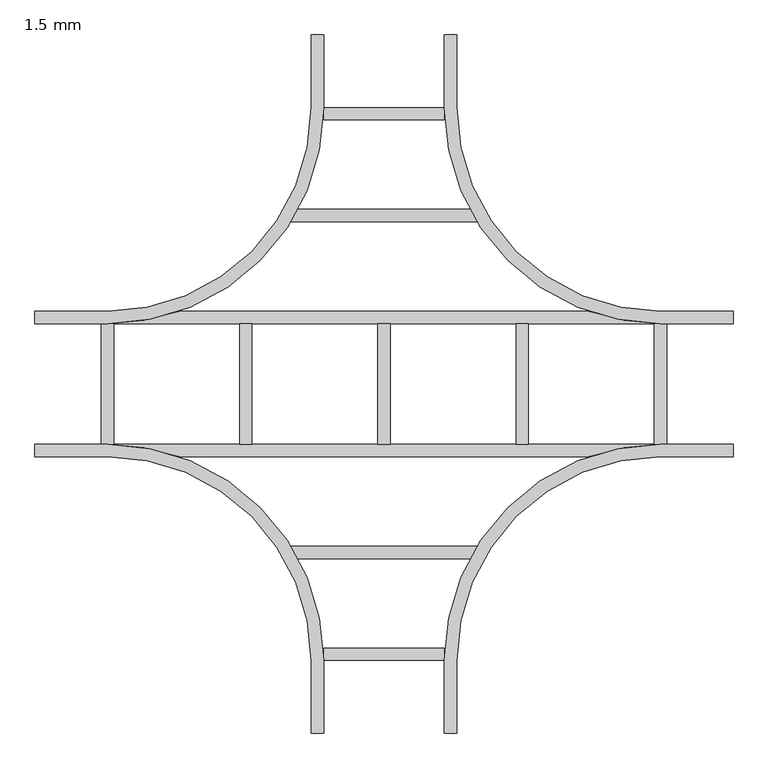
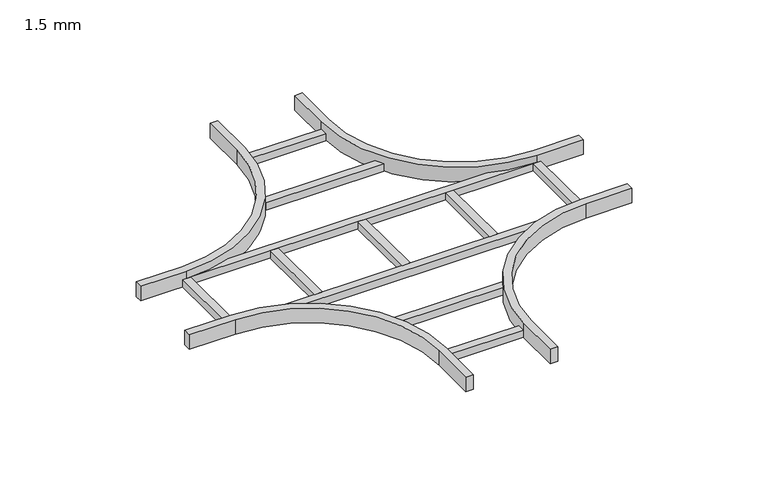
"""IFC4 building model written with IfcOpenShell, lengths in millimetres: cable carrier fitting geometry, BAKS_Czwórnik_drabiny : 1.5 mm."""

from ifc_helpers import new_model, si_unit, frame, origin, place, context, project, spatial, polyline, circle_curve, outline, extrude, source, transform, mapped, element, save
from ifc_brep_helpers import plane_surface, cylinder_surface, revolved_surface, advanced_brep


def cable_carrier_fitting_1_5_mm_98a35593(model_context):
    return source(origin(), model_context, "Body", "SolidModel", [
        extrude(outline(polyline([(191.8889052, -334.6), (191.8889052, -360.0), (-191.8889052, -360.0), (-191.8889052, -334.6), (191.8889052, -334.6)])), frame((0.0, 0.0, -25.0), z_axis=(0.0, 0.0, 1.0), x_axis=(1.0, 0.0, 0.0)), (0.0, 0.0, 1.0), 25.4),
        extrude(outline(polyline([(191.8889052, 360.0), (191.8889052, 334.6), (-191.8889052, 334.6), (-191.8889052, 360.0), (191.8889052, 360.0)])), frame((0.0, 0.0, -25.0), z_axis=(0.0, 0.0, 1.0), x_axis=(1.0, 0.0, 0.0)), (0.0, 0.0, 1.0), 25.4),
        extrude(outline(polyline([(124.6, -544.6), (124.6, -570.0), (-124.6, -570.0), (-124.6, -544.6), (124.6, -544.6)])), frame((0.0, 0.0, -25.0), z_axis=(0.0, 0.0, 1.0), x_axis=(1.0, 0.0, 0.0)), (0.0, 0.0, 1.0), 25.4),
        extrude(outline(polyline([(124.6, 570.0), (124.6, 544.6), (-124.6, 544.6), (-124.6, 570.0), (124.6, 570.0)])), frame((0.0, 0.0, -25.0), z_axis=(0.0, 0.0, 1.0), x_axis=(1.0, 0.0, 0.0)), (0.0, 0.0, 1.0), 25.4),
        extrude(outline(polyline([(582.7, 124.6), (582.7, -124.6), (557.3, -124.6), (557.3, 124.6), (582.7, 124.6)])), frame((0.0, 0.0, -25.0), z_axis=(0.0, 0.0, 1.0), x_axis=(1.0, 0.0, 0.0)), (0.0, 0.0, 1.0), 25.4),
        extrude(outline(polyline([(297.7, 124.6), (297.7, -124.6), (272.3, -124.6), (272.3, 124.6), (297.7, 124.6)])), frame((0.0, 0.0, -25.0), z_axis=(0.0, 0.0, 1.0), x_axis=(1.0, 0.0, 0.0)), (0.0, 0.0, 1.0), 25.4),
        extrude(outline(polyline([(12.7, 124.6), (12.7, -124.6), (-12.7, -124.6), (-12.7, 124.6), (12.7, 124.6)])), frame((0.0, 0.0, -25.0), z_axis=(0.0, 0.0, 1.0), x_axis=(1.0, 0.0, 0.0)), (0.0, 0.0, 1.0), 25.4),
        extrude(outline(polyline([(-272.3, 124.6), (-272.3, -124.6), (-297.7, -124.6), (-297.7, 124.6), (-272.3, 124.6)])), frame((0.0, 0.0, -25.0), z_axis=(0.0, 0.0, 1.0), x_axis=(1.0, 0.0, 0.0)), (0.0, 0.0, 1.0), 25.4),
        extrude(outline(polyline([(-557.3, 124.6), (-557.3, -124.6), (-582.7, -124.6), (-582.7, 124.6), (-557.3, 124.6)])), frame((0.0, 0.0, -25.0), z_axis=(0.0, 0.0, 1.0), x_axis=(1.0, 0.0, 0.0)), (0.0, 0.0, 1.0), 25.4),
        advanced_brep(
        [(-150.0, -570.0, 25.0), (-150.0, -720.0, 25.0), (-124.6, -720.0, 25.0), (-124.6, -570.0, 25.0), (-570.0, -124.6, 25.0), (-720.0, -124.6, 25.0), (-720.0, -150.0, 25.0), (-570.0, -150.0, 25.0), (150.0, -570.0, 25.0), (570.0, -150.0, 25.0), (720.0, -150.0, 25.0), (720.0, -124.6, 25.0), (570.0, -124.6, 25.0), (124.6, -570.0, 25.0), (124.6, -720.0, 25.0), (150.0, -720.0, 25.0), (-150.0, -570.0, -25.0), (-570.0, -150.0, -25.0), (-720.0, -150.0, -25.0), (-720.0, -124.6, -25.0), (720.0, -124.6, -25.0), (720.0, -150.0, -25.0), (570.0, -150.0, -25.0), (150.0, -570.0, -25.0), (150.0, -720.0, -25.0), (124.6, -720.0, -25.0), (124.6, -570.0, -25.0), (421.7395535, -150.0, -25.0), (-421.7395535, -150.0, -25.0), (-124.6, -570.0, -25.0), (-124.6, -720.0, -25.0), (-150.0, -720.0, -25.0), (-421.7395535, -150.0, 0.4), (-570.0, -124.6, 0.4), (570.0, -124.6, 0.4), (-570.0, -150.0, 0.4), (570.0, -150.0, 0.4), (421.7395535, -150.0, 0.4)],
        [
            (0, 1),
            (1, 2),
            (2, 3),
            (3, 4, circle_curve(frame((-570.0, -570.0, 25.0), z_axis=(0.0, 0.0, 1.0), x_axis=(1.0, 0.0, 0.0)), 445.4)),
            (4, 5),
            (5, 6),
            (6, 7),
            (7, 0, circle_curve(frame((-570.0, -570.0, 25.0), z_axis=(0.0, 0.0, -1.0), x_axis=(1.0, 0.0, 0.0)), 420.0)),
            (8, 9, circle_curve(frame((570.0, -570.0, 25.0), z_axis=(0.0, 0.0, -1.0), x_axis=(1.0, 0.0, 0.0)), 420.0)),
            (9, 10),
            (10, 11),
            (11, 12),
            (12, 13, circle_curve(frame((570.0, -570.0, 25.0), z_axis=(0.0, 0.0, 1.0), x_axis=(1.0, 0.0, 0.0)), 445.4)),
            (13, 14),
            (14, 15),
            (15, 8),
            (16, 17, circle_curve(frame((-570.0, -570.0, -25.0), z_axis=(0.0, 0.0, 1.0), x_axis=(1.0, 0.0, 0.0)), 420.0)),
            (17, 18),
            (18, 19),
            (19, 20),
            (20, 21),
            (21, 22),
            (22, 23, circle_curve(frame((570.0, -570.0, -25.0), z_axis=(0.0, 0.0, 1.0), x_axis=(1.0, 0.0, 0.0)), 420.0)),
            (23, 24),
            (24, 25),
            (25, 26),
            (26, 27, circle_curve(frame((570.0, -570.0, -25.0), z_axis=(0.0, 0.0, -1.0), x_axis=(1.0, 0.0, 0.0)), 445.4)),
            (27, 28),
            (28, 29, circle_curve(frame((-570.0, -570.0, -25.0), z_axis=(0.0, 0.0, -1.0), x_axis=(1.0, 0.0, 0.0)), 445.4)),
            (29, 30),
            (30, 31),
            (31, 16),
            (0, 16),
            (31, 1),
            (30, 2),
            (29, 3),
            (28, 32),
            (32, 33, circle_curve(frame((-570.0, -570.0, 0.4), z_axis=(0.0, 0.0, 1.0), x_axis=(1.0, 0.0, 0.0)), 445.4)),
            (33, 4),
            (33, 34),
            (34, 12),
            (11, 20),
            (19, 5),
            (18, 6),
            (17, 35),
            (35, 7),
            (8, 23),
            (22, 36),
            (36, 9),
            (21, 10),
            (34, 37, circle_curve(frame((570.0, -570.0, 0.4), z_axis=(0.0, 0.0, 1.0), x_axis=(1.0, 0.0, 0.0)), 445.4)),
            (37, 27),
            (26, 13),
            (25, 14),
            (24, 15),
            (32, 37),
        ],
        [
            plane_surface(frame((-150.0, -570.0, 25.0), z_axis=(0.0, 0.0, 1.0), x_axis=(0.0, -1.0, 0.0))),
            plane_surface(frame((-150.0, -570.0, -25.0), z_axis=(0.0, 0.0, -1.0), x_axis=(0.0, 1.0, 0.0))),
            plane_surface(frame((-150.0, -570.0, 25.0), z_axis=(-1.0, 0.0, 0.0), x_axis=(0.0, 0.0, -1.0))),
            plane_surface(frame((-150.0, -720.0, 25.0), z_axis=(0.0, -1.0, 0.0), x_axis=(0.0, 0.0, -1.0))),
            plane_surface(frame((-124.6, -720.0, 25.0), z_axis=(1.0, 0.0, 0.0), x_axis=(0.0, 0.0, -1.0))),
            cylinder_surface(frame((-570.0, -570.0, -25.0), z_axis=(0.0, 0.0, 1.0), x_axis=(1.0, 0.0, 0.0)), 445.4),
            plane_surface(frame((-570.0, -124.6, 25.0), z_axis=(0.0, 1.0, 0.0), x_axis=(0.0, 0.0, -1.0))),
            plane_surface(frame((-720.0, -124.6, 25.0), z_axis=(-1.0, 0.0, 0.0), x_axis=(0.0, 0.0, -1.0))),
            plane_surface(frame((-720.0, -150.0, 25.0), z_axis=(0.0, -1.0, 0.0), x_axis=(0.0, 0.0, -1.0))),
            revolved_surface(polyline([(-150.0, -570.0, -25.0), (-150.0, -570.0, 25.0)]), (-570.0, -570.0, -25.0), (0.0, 0.0, -1.0)),
            revolved_surface(polyline([(990.0, -570.0, -25.0), (990.0, -570.0, 25.0)]), (570.0, -570.0, 0.0), (0.0, 0.0, -1.0)),
            plane_surface(frame((570.0, -150.0, 25.0), z_axis=(0.0, -1.0, 0.0), x_axis=(0.0, 0.0, -1.0))),
            plane_surface(frame((720.0, -150.0, 25.0), z_axis=(1.0, 0.0, 0.0), x_axis=(0.0, 0.0, -1.0))),
            cylinder_surface(frame((570.0, -570.0, 0.0), z_axis=(0.0, 0.0, 1.0), x_axis=(1.0, 0.0, 0.0)), 445.4),
            plane_surface(frame((124.6, -570.0, 25.0), z_axis=(-1.0, 0.0, 0.0), x_axis=(0.0, 0.0, -1.0))),
            plane_surface(frame((124.6, -720.0, 25.0), z_axis=(0.0, -1.0, 0.0), x_axis=(0.0, 0.0, -1.0))),
            plane_surface(frame((150.0, -720.0, 25.0), z_axis=(1.0, 0.0, 0.0), x_axis=(0.0, 0.0, -1.0))),
            plane_surface(frame((-570.0, -124.6, 0.4), z_axis=(0.0, 0.0, 1.0), x_axis=(-1.0, 0.0, 0.0))),
            plane_surface(frame((-570.0, -150.0, 0.4), z_axis=(0.0, -1.0, 0.0), x_axis=(0.0, 0.0, -1.0))),
        ],
        [
            (0, [[1, 2, 3, 4, 5, 6, 7, 8]]),
            (0, [[9, 10, 11, 12, 13, 14, 15, 16]]),
            (1, [[17, 18, 19, 20, 21, 22, 23, 24, 25, 26, 27, 28, 29, 30, 31, 32]]),
            (2, [[-1, 33, -32, 34]]),
            (3, [[-2, -34, -31, 35]]),
            (4, [[-3, -35, -30, 36]]),
            (5, [[-4, -36, -29, 37, 38, 39]]),
            (6, [[-5, -39, 40, 41, -12, 42, -20, 43]]),
            (7, [[-6, -43, -19, 44]]),
            (8, [[-7, -44, -18, 45, 46]]),
            (9, [[-8, -46, -45, -17, -33]]),
            (10, [[-9, 47, -23, 48, 49]]),
            (11, [[-10, -49, -48, -22, 50]]),
            (12, [[-11, -50, -21, -42]]),
            (13, [[-13, -41, 51, 52, -27, 53]]),
            (14, [[-14, -53, -26, 54]]),
            (15, [[-15, -54, -25, 55]]),
            (16, [[-16, -55, -24, -47]]),
            (17, [[-40, -38, 56, -51]]),
            (18, [[-28, -52, -56, -37]]),
        ],
    ),
        advanced_brep(
        [(-124.6, 570.0, 25.0), (-124.6, 720.0, 25.0), (-150.0, 720.0, 25.0), (-150.0, 570.0, 25.0), (-570.0, 150.0, 25.0), (-720.0, 150.0, 25.0), (-720.0, 124.6, 25.0), (-570.0, 124.6, 25.0), (124.6, 570.0, 25.0), (570.0, 124.6, 25.0), (720.0, 124.6, 25.0), (720.0, 150.0, 25.0), (570.0, 150.0, 25.0), (150.0, 570.0, 25.0), (150.0, 720.0, 25.0), (124.6, 720.0, 25.0), (-720.0, 124.6, -25.0), (-720.0, 150.0, -25.0), (-570.0, 150.0, -25.0), (-150.0, 570.0, -25.0), (-150.0, 720.0, -25.0), (-124.6, 720.0, -25.0), (-124.6, 570.0, -25.0), (-421.7395535, 150.0, -25.0), (421.7395535, 150.0, -25.0), (124.6, 570.0, -25.0), (124.6, 720.0, -25.0), (150.0, 720.0, -25.0), (150.0, 570.0, -25.0), (570.0, 150.0, -25.0), (720.0, 150.0, -25.0), (720.0, 124.6, -25.0), (-570.0, 124.6, 0.4), (570.0, 124.6, 0.4), (421.7395535, 150.0, 0.4), (-421.7395535, 150.0, 0.4), (-570.0, 150.0, 0.4), (570.0, 150.0, 0.4)],
        [
            (0, 1),
            (1, 2),
            (2, 3),
            (3, 4, circle_curve(frame((-570.0, 570.0, 25.0), z_axis=(0.0, 0.0, -1.0), x_axis=(1.0, 0.0, 0.0)), 420.0)),
            (4, 5),
            (5, 6),
            (6, 7),
            (7, 0, circle_curve(frame((-570.0, 570.0, 25.0), z_axis=(0.0, 0.0, 1.0), x_axis=(1.0, 0.0, 0.0)), 445.4)),
            (8, 9, circle_curve(frame((570.0, 570.0, 25.0), z_axis=(0.0, 0.0, 1.0), x_axis=(1.0, 0.0, 0.0)), 445.4)),
            (9, 10),
            (10, 11),
            (11, 12),
            (12, 13, circle_curve(frame((570.0, 570.0, 25.0), z_axis=(0.0, 0.0, -1.0), x_axis=(1.0, 0.0, 0.0)), 420.0)),
            (13, 14),
            (14, 15),
            (15, 8),
            (16, 17),
            (17, 18),
            (18, 19, circle_curve(frame((-570.0, 570.0, -25.0), z_axis=(0.0, 0.0, 1.0), x_axis=(1.0, 0.0, 0.0)), 420.0)),
            (19, 20),
            (20, 21),
            (21, 22),
            (22, 23, circle_curve(frame((-570.0, 570.0, -25.0), z_axis=(0.0, 0.0, -1.0), x_axis=(1.0, 0.0, 0.0)), 445.4)),
            (23, 24),
            (24, 25, circle_curve(frame((570.0, 570.0, -25.0), z_axis=(0.0, 0.0, -1.0), x_axis=(1.0, 0.0, 0.0)), 445.4)),
            (25, 26),
            (26, 27),
            (27, 28),
            (28, 29, circle_curve(frame((570.0, 570.0, -25.0), z_axis=(0.0, 0.0, 1.0), x_axis=(1.0, 0.0, 0.0)), 420.0)),
            (29, 30),
            (30, 31),
            (31, 16),
            (32, 33),
            (33, 34, circle_curve(frame((570.0, 570.0, 0.4), z_axis=(0.0, 0.0, -1.0), x_axis=(1.0, 0.0, 0.0)), 445.4)),
            (34, 35),
            (35, 32, circle_curve(frame((-570.0, 570.0, 0.4), z_axis=(0.0, 0.0, -1.0), x_axis=(1.0, 0.0, 0.0)), 445.4)),
            (0, 22),
            (21, 1),
            (20, 2),
            (19, 3),
            (18, 36),
            (36, 4),
            (17, 5),
            (16, 6),
            (31, 10),
            (9, 33),
            (32, 7),
            (35, 23),
            (8, 25),
            (24, 34),
            (30, 11),
            (29, 37),
            (37, 12),
            (28, 13),
            (27, 14),
            (26, 15),
        ],
        [
            plane_surface(frame((-150.0, -570.0, 25.0), z_axis=(0.0, 0.0, 1.0), x_axis=(0.0, -1.0, 0.0))),
            plane_surface(frame((-150.0, -570.0, -25.0), z_axis=(0.0, 0.0, -1.0), x_axis=(0.0, 1.0, 0.0))),
            plane_surface(frame((-570.0, -124.6, 0.4), z_axis=(0.0, 0.0, 1.0), x_axis=(-1.0, 0.0, 0.0))),
            plane_surface(frame((-124.6, 570.0, 25.0), z_axis=(1.0, 0.0, 0.0), x_axis=(0.0, 0.0, -1.0))),
            plane_surface(frame((-124.6, 720.0, 25.0), z_axis=(0.0, 1.0, 0.0), x_axis=(0.0, 0.0, -1.0))),
            plane_surface(frame((-150.0, 720.0, 25.0), z_axis=(-1.0, 0.0, 0.0), x_axis=(0.0, 0.0, -1.0))),
            revolved_surface(polyline([(-150.0, 570.0, -25.0), (-150.0, 570.0, 25.0)]), (-570.0, 570.0, 0.0), (0.0, 0.0, -1.0)),
            plane_surface(frame((-570.0, 150.0, 25.0), z_axis=(0.0, 1.0, 0.0), x_axis=(0.0, 0.0, -1.0))),
            plane_surface(frame((-720.0, 150.0, 25.0), z_axis=(-1.0, 0.0, 0.0), x_axis=(0.0, 0.0, -1.0))),
            plane_surface(frame((-720.0, 124.6, 25.0), z_axis=(0.0, -1.0, 0.0), x_axis=(0.0, 0.0, -1.0))),
            cylinder_surface(frame((-570.0, 570.0, 0.0), z_axis=(0.0, 0.0, 1.0), x_axis=(1.0, 0.0, 0.0)), 445.4),
            cylinder_surface(frame((570.0, 570.0, 0.0), z_axis=(0.0, 0.0, 1.0), x_axis=(1.0, 0.0, 0.0)), 445.4),
            plane_surface(frame((720.0, 124.6, 25.0), z_axis=(1.0, 0.0, 0.0), x_axis=(0.0, 0.0, -1.0))),
            plane_surface(frame((720.0, 150.0, 25.0), z_axis=(0.0, 1.0, 0.0), x_axis=(0.0, 0.0, -1.0))),
            revolved_surface(polyline([(990.0, 570.0, -25.0), (990.0, 570.0, 25.0)]), (570.0, 570.0, 0.0), (0.0, 0.0, -1.0)),
            plane_surface(frame((150.0, 570.0, 25.0), z_axis=(1.0, 0.0, 0.0), x_axis=(0.0, 0.0, -1.0))),
            plane_surface(frame((150.0, 720.0, 25.0), z_axis=(0.0, 1.0, 0.0), x_axis=(0.0, 0.0, -1.0))),
            plane_surface(frame((124.6, 720.0, 25.0), z_axis=(-1.0, 0.0, 0.0), x_axis=(0.0, 0.0, -1.0))),
            plane_surface(frame((570.0, 150.0, 0.4), z_axis=(0.0, 1.0, 0.0), x_axis=(0.0, 0.0, -1.0))),
        ],
        [
            (0, [[1, 2, 3, 4, 5, 6, 7, 8]]),
            (0, [[9, 10, 11, 12, 13, 14, 15, 16]]),
            (1, [[17, 18, 19, 20, 21, 22, 23, 24, 25, 26, 27, 28, 29, 30, 31, 32]]),
            (2, [[33, 34, 35, 36]]),
            (3, [[-1, 37, -22, 38]]),
            (4, [[-2, -38, -21, 39]]),
            (5, [[-3, -39, -20, 40]]),
            (6, [[-4, -40, -19, 41, 42]]),
            (7, [[-5, -42, -41, -18, 43]]),
            (8, [[-6, -43, -17, 44]]),
            (9, [[-7, -44, -32, 45, -10, 46, -33, 47]]),
            (10, [[-8, -47, -36, 48, -23, -37]]),
            (11, [[-9, 49, -25, 50, -34, -46]]),
            (12, [[-11, -45, -31, 51]]),
            (13, [[-12, -51, -30, 52, 53]]),
            (14, [[-13, -53, -52, -29, 54]]),
            (15, [[-14, -54, -28, 55]]),
            (16, [[-15, -55, -27, 56]]),
            (17, [[-16, -56, -26, -49]]),
            (18, [[-24, -48, -35, -50]]),
        ],
    ),
    ])


if __name__ == "__main__":
    model = new_model("IFC4")
    model_context = context("Model", 3, world=origin())
    ifc_project = project(units=[si_unit("LENGTHUNIT", "METRE", prefix="MILLI")], contexts=[model_context])
    site = spatial("IfcSite", under=ifc_project)
    building = spatial("IfcBuilding", under=site)
    placement = place(None, origin())
    cable_carrier_fitting_1_5_mm_shape = cable_carrier_fitting_1_5_mm_98a35593(model_context)
    element("IfcCableCarrierFitting", 1, ObjectType="BAKS_Czwórnik_drabiny : 1.5 mm", at=placement, inside=building, context=model_context, shape_type="MappedRepresentation", body=[
        mapped(cable_carrier_fitting_1_5_mm_shape, transform((0.0, 0.0, 0.0), x_axis=(1.0, 0.0, 0.0), y_axis=(0.0, 1.0, 0.0), z_axis=(0.0, 0.0, 1.0))),
    ])
    save(model, "model.ifc")
